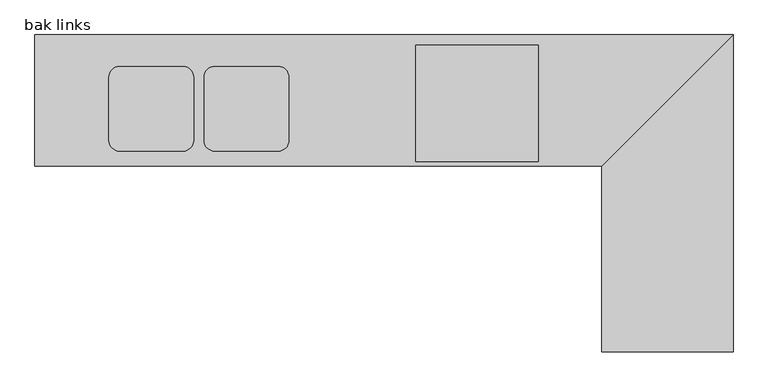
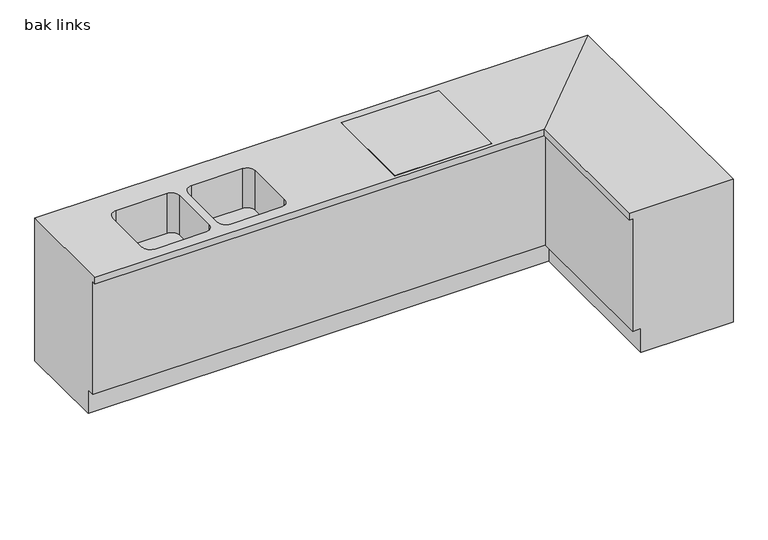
"""IFC4 building model written with IfcOpenShell, lengths in millimetres: furniture geometry, NL_73_aanrechtblok hoek : bak links."""

from ifc_helpers import new_model, si_unit, frame, origin, place, context, project, spatial, polyline, circle_curve, outline, extrude, source, transform, mapped, element, save
from ifc_brep_helpers import plane_surface, revolved_surface, advanced_brep


def bak_links_381d0626(model_context):
    return source(origin(), model_context, "Body", "SolidModel", [
        extrude(outline(polyline([(-389.8761694, -50.0), (-389.8761694, -600.0), (-969.8761694, -600.0), (-969.8761694, -50.0), (-389.8761694, -50.0)])), frame((0.0, 0.0, 900.0), z_axis=(0.0, 0.0, 1.0), x_axis=(1.0, 0.0, 0.0)), (0.0, 0.0, 1.0), 2.0),
        advanced_brep(
        [(-2769.8761694, -550.0, 0.0), (-2769.8761694, -550.0, 150.0), (-2769.8761694, -600.0, 150.0), (-2769.8761694, -600.0, 860.0), (-2769.8761694, -620.0, 860.0), (-2769.8761694, -620.0, 900.0), (-2769.8761694, 0.0, 900.0), (-2769.8761694, 0.0, 0.0), (-19.8761694, -550.0, 0.0), (-19.8761694, -550.0, 150.0), (-69.8761694, -600.0, 150.0), (-69.8761694, -600.0, 860.0), (-89.8761694, -620.0, 860.0), (-89.8761694, -620.0, 900.0), (530.1238306, 0.0, 900.0), (-2369.8761694, -150.0, 900.0), (-2069.8761694, -150.0, 900.0), (-2019.8761694, -200.0, 900.0), (-2019.8761694, -500.0, 900.0), (-2069.8761694, -550.0, 900.0), (-2369.8761694, -550.0, 900.0), (-2419.8761694, -500.0, 900.0), (-2419.8761694, -200.0, 900.0), (-1919.8761694, -150.0, 900.0), (-1619.8761694, -150.0, 900.0), (-1569.8761694, -200.0, 900.0), (-1569.8761694, -500.0, 900.0), (-1619.8761694, -550.0, 900.0), (-1919.8761694, -550.0, 900.0), (-1969.8761694, -500.0, 900.0), (-1969.8761694, -200.0, 900.0), (530.1238306, 0.0, 0.0), (-19.8761694, -1500.0, 0.0), (530.1238306, -1500.0, 0.0), (530.1238306, -1500.0, 900.0), (-89.8761694, -1500.0, 900.0), (-89.8761694, -1500.0, 860.0), (-69.8761694, -1500.0, 860.0), (-69.8761694, -1500.0, 150.0), (-19.8761694, -1500.0, 150.0), (-2069.8761694, -150.0, 650.0), (-2369.8761694, -150.0, 650.0), (-2419.8761694, -200.0, 650.0), (-2419.8761694, -500.0, 650.0), (-2369.8761694, -550.0, 650.0), (-2069.8761694, -550.0, 650.0), (-2019.8761694, -500.0, 650.0), (-2019.8761694, -200.0, 650.0), (-1619.8761694, -150.0, 650.0), (-1919.8761694, -150.0, 650.0), (-1969.8761694, -200.0, 650.0), (-1969.8761694, -500.0, 650.0), (-1919.8761694, -550.0, 650.0), (-1619.8761694, -550.0, 650.0), (-1569.8761694, -500.0, 650.0), (-1569.8761694, -200.0, 650.0)],
        [
            (0, 1),
            (1, 2),
            (2, 3),
            (3, 4),
            (4, 5),
            (5, 6),
            (6, 7),
            (7, 0),
            (0, 8),
            (8, 9),
            (9, 1),
            (9, 10),
            (10, 2),
            (10, 11),
            (11, 3),
            (11, 12),
            (12, 4),
            (12, 13),
            (13, 5),
            (13, 14),
            (14, 6),
            (15, 16),
            (16, 17, circle_curve(frame((-2069.8761694, -200.0, 900.0), z_axis=(0.0, 0.0, -1.0), x_axis=(0.0, -1.0, 0.0)), 50.0)),
            (17, 18),
            (18, 19, circle_curve(frame((-2069.8761694, -500.0, 900.0), z_axis=(0.0, 0.0, -1.0), x_axis=(0.0, -1.0, 0.0)), 50.0)),
            (19, 20),
            (20, 21, circle_curve(frame((-2369.8761694, -500.0, 900.0), z_axis=(0.0, 0.0, -1.0), x_axis=(0.0, -1.0, 0.0)), 50.0)),
            (21, 22),
            (22, 15, circle_curve(frame((-2369.8761694, -200.0, 900.0), z_axis=(0.0, 0.0, -1.0), x_axis=(0.0, -1.0, 0.0)), 50.0)),
            (23, 24),
            (24, 25, circle_curve(frame((-1619.8761694, -200.0, 900.0), z_axis=(0.0, 0.0, -1.0), x_axis=(0.0, -1.0, 0.0)), 50.0)),
            (25, 26),
            (26, 27, circle_curve(frame((-1619.8761694, -500.0, 900.0), z_axis=(0.0, 0.0, -1.0), x_axis=(0.0, -1.0, 0.0)), 50.0)),
            (27, 28),
            (28, 29, circle_curve(frame((-1919.8761694, -500.0, 900.0), z_axis=(0.0, 0.0, -1.0), x_axis=(0.0, -1.0, 0.0)), 50.0)),
            (29, 30),
            (30, 23, circle_curve(frame((-1919.8761694, -200.0, 900.0), z_axis=(0.0, 0.0, -1.0), x_axis=(0.0, -1.0, 0.0)), 50.0)),
            (14, 31),
            (31, 7),
            (31, 8),
            (32, 33),
            (33, 34),
            (34, 35),
            (35, 36),
            (36, 37),
            (37, 38),
            (38, 39),
            (39, 32),
            (8, 32),
            (39, 9),
            (38, 10),
            (37, 11),
            (36, 12),
            (35, 13),
            (34, 14),
            (33, 31),
            (40, 41),
            (41, 42, circle_curve(frame((-2369.8761694, -200.0, 650.0), z_axis=(0.0, 0.0, 1.0), x_axis=(0.0, -1.0, 0.0)), 50.0)),
            (42, 43),
            (43, 44, circle_curve(frame((-2369.8761694, -500.0, 650.0), z_axis=(0.0, 0.0, 1.0), x_axis=(0.0, -1.0, 0.0)), 50.0)),
            (44, 45),
            (45, 46, circle_curve(frame((-2069.8761694, -500.0, 650.0), z_axis=(0.0, 0.0, 1.0), x_axis=(0.0, -1.0, 0.0)), 50.0)),
            (46, 47),
            (47, 40, circle_curve(frame((-2069.8761694, -200.0, 650.0), z_axis=(0.0, 0.0, 1.0), x_axis=(0.0, -1.0, 0.0)), 50.0)),
            (40, 16),
            (15, 41),
            (22, 42),
            (21, 43),
            (20, 44),
            (19, 45),
            (18, 46),
            (17, 47),
            (48, 49),
            (49, 50, circle_curve(frame((-1919.8761694, -200.0, 650.0), z_axis=(0.0, 0.0, 1.0), x_axis=(0.0, -1.0, 0.0)), 50.0)),
            (50, 51),
            (51, 52, circle_curve(frame((-1919.8761694, -500.0, 650.0), z_axis=(0.0, 0.0, 1.0), x_axis=(0.0, -1.0, 0.0)), 50.0)),
            (52, 53),
            (53, 54, circle_curve(frame((-1619.8761694, -500.0, 650.0), z_axis=(0.0, 0.0, 1.0), x_axis=(0.0, -1.0, 0.0)), 50.0)),
            (54, 55),
            (55, 48, circle_curve(frame((-1619.8761694, -200.0, 650.0), z_axis=(0.0, 0.0, 1.0), x_axis=(0.0, -1.0, 0.0)), 50.0)),
            (48, 24),
            (23, 49),
            (30, 50),
            (29, 51),
            (28, 52),
            (27, 53),
            (26, 54),
            (25, 55),
        ],
        [
            plane_surface(frame((-2769.8761694, 0.0, -1092.8860874), z_axis=(-1.0, 0.0, 0.0), x_axis=(0.0, 1.0, 0.0))),
            plane_surface(frame((-2769.8761694, -550.0, 0.0), z_axis=(0.0, -1.0, 0.0), x_axis=(1.0, 0.0, 0.0))),
            plane_surface(frame((-2769.8761694, -550.0, 150.0), z_axis=(0.0, 0.0, -1.0), x_axis=(1.0, 0.0, 0.0))),
            plane_surface(frame((-2769.8761694, -600.0, 150.0), z_axis=(0.0, -1.0, 0.0), x_axis=(1.0, 0.0, 0.0))),
            plane_surface(frame((-2769.8761694, -600.0, 860.0), z_axis=(0.0, 0.0, -1.0), x_axis=(1.0, 0.0, 0.0))),
            plane_surface(frame((-2769.8761694, -620.0, 860.0), z_axis=(0.0, -1.0, 0.0), x_axis=(1.0, 0.0, 0.0))),
            plane_surface(frame((-2769.8761694, -620.0, 900.0), z_axis=(0.0, 0.0, 1.0), x_axis=(1.0, 0.0, 0.0))),
            plane_surface(frame((-2769.8761694, 0.0, 900.0), z_axis=(0.0, 1.0, 0.0), x_axis=(1.0, 0.0, 0.0))),
            plane_surface(frame((-2769.8761694, 0.0, 0.0), z_axis=(0.0, 0.0, -1.0), x_axis=(1.0, 0.0, 0.0))),
            plane_surface(frame((-562.7622567, -1500.0, 0.0), z_axis=(0.0, -1.0, 0.0), x_axis=(0.0, 0.0, -1.0))),
            plane_surface(frame((-19.8761694, -550.0, 0.0), z_axis=(-1.0, 0.0, 0.0), x_axis=(0.0, -1.0, 0.0))),
            plane_surface(frame((-19.8761694, -550.0, 150.0), z_axis=(0.0, 0.0, -1.0), x_axis=(0.0, -1.0, 0.0))),
            plane_surface(frame((-69.8761694, -600.0, 150.0), z_axis=(-1.0, 0.0, 0.0), x_axis=(0.0, -1.0, 0.0))),
            plane_surface(frame((-69.8761694, -600.0, 860.0), z_axis=(0.0, 0.0, -1.0), x_axis=(0.0, -1.0, 0.0))),
            plane_surface(frame((-89.8761694, -620.0, 860.0), z_axis=(-1.0, 0.0, 0.0), x_axis=(0.0, -1.0, 0.0))),
            plane_surface(frame((-89.8761694, -620.0, 900.0), z_axis=(0.0, 0.0, 1.0), x_axis=(0.0, -1.0, 0.0))),
            plane_surface(frame((530.1238306, 0.0, 900.0), z_axis=(1.0, 0.0, 0.0), x_axis=(0.0, -1.0, 0.0))),
            plane_surface(frame((530.1238306, 0.0, 0.0), z_axis=(0.0, 0.0, -1.0), x_axis=(0.0, -1.0, 0.0))),
            plane_surface(frame((-2369.8761694, -150.0, 650.0), z_axis=(0.0, 0.0, 1.0), x_axis=(1.0, 0.0, 0.0))),
            plane_surface(frame((-2069.8761694, -150.0, 900.0), z_axis=(0.0, -1.0, 0.0), x_axis=(0.0, 0.0, -1.0))),
            revolved_surface(polyline([(-2369.8761694, -250.0, 900.0), (-2369.8761694, -250.0, 650.0)]), (-2369.8761694, -200.0, 650.0), (0.0, 0.0, 1.0)),
            plane_surface(frame((-2419.8761694, -200.0, 900.0), z_axis=(1.0, 0.0, 0.0), x_axis=(0.0, 0.0, -1.0))),
            revolved_surface(polyline([(-2369.8761694, -550.0, 900.0), (-2369.8761694, -550.0, 650.0)]), (-2369.8761694, -500.0, 650.0), (0.0, 0.0, 1.0)),
            plane_surface(frame((-2369.8761694, -550.0, 900.0), z_axis=(0.0, 1.0, 0.0), x_axis=(0.0, 0.0, -1.0))),
            revolved_surface(polyline([(-2069.8761694, -550.0, 900.0), (-2069.8761694, -550.0, 650.0)]), (-2069.8761694, -500.0, 650.0), (0.0, 0.0, 1.0)),
            plane_surface(frame((-2019.8761694, -500.0, 900.0), z_axis=(-1.0, 0.0, 0.0), x_axis=(0.0, 0.0, -1.0))),
            revolved_surface(polyline([(-2069.8761694, -250.0, 900.0), (-2069.8761694, -250.0, 650.0)]), (-2069.8761694, -200.0, 650.0), (0.0, 0.0, 1.0)),
            plane_surface(frame((-1919.8761694, -150.0, 650.0), z_axis=(0.0, 0.0, 1.0), x_axis=(1.0, 0.0, 0.0))),
            plane_surface(frame((-1619.8761694, -150.0, 900.0), z_axis=(0.0, -1.0, 0.0), x_axis=(0.0, 0.0, -1.0))),
            revolved_surface(polyline([(-1919.8761694, -250.0, 900.0), (-1919.8761694, -250.0, 650.0)]), (-1919.8761694, -200.0, 650.0), (0.0, 0.0, 1.0)),
            plane_surface(frame((-1969.8761694, -200.0, 900.0), z_axis=(1.0, 0.0, 0.0), x_axis=(0.0, 0.0, -1.0))),
            revolved_surface(polyline([(-1919.8761694, -550.0, 900.0), (-1919.8761694, -550.0, 650.0)]), (-1919.8761694, -500.0, 650.0), (0.0, 0.0, 1.0)),
            plane_surface(frame((-1919.8761694, -550.0, 900.0), z_axis=(0.0, 1.0, 0.0), x_axis=(0.0, 0.0, -1.0))),
            revolved_surface(polyline([(-1619.8761694, -550.0, 900.0), (-1619.8761694, -550.0, 650.0)]), (-1619.8761694, -500.0, 650.0), (0.0, 0.0, 1.0)),
            plane_surface(frame((-1569.8761694, -500.0, 900.0), z_axis=(-1.0, 0.0, 0.0), x_axis=(0.0, 0.0, -1.0))),
            revolved_surface(polyline([(-1619.8761694, -250.0, 900.0), (-1619.8761694, -250.0, 650.0)]), (-1619.8761694, -200.0, 650.0), (0.0, 0.0, 1.0)),
        ],
        [
            (0, [[1, 2, 3, 4, 5, 6, 7, 8]]),
            (1, [[-1, 9, 10, 11]]),
            (2, [[-2, -11, 12, 13]]),
            (3, [[-3, -13, 14, 15]]),
            (4, [[-4, -15, 16, 17]]),
            (5, [[-5, -17, 18, 19]]),
            (6, [[-6, -19, 20, 21], [22, 23, 24, 25, 26, 27, 28, 29], [30, 31, 32, 33, 34, 35, 36, 37]]),
            (7, [[-7, -21, 38, 39]]),
            (8, [[-8, -39, 40, -9]]),
            (9, [[41, 42, 43, 44, 45, 46, 47, 48]]),
            (10, [[-10, 49, -48, 50]]),
            (11, [[-12, -50, -47, 51]]),
            (12, [[-14, -51, -46, 52]]),
            (13, [[-16, -52, -45, 53]]),
            (14, [[-18, -53, -44, 54]]),
            (15, [[-20, -54, -43, 55]]),
            (16, [[-38, -55, -42, 56]]),
            (17, [[-40, -56, -41, -49]]),
            (18, [[57, 58, 59, 60, 61, 62, 63, 64]]),
            (19, [[-57, 65, -22, 66]]),
            (20, [[-58, -66, -29, 67]]),
            (21, [[-59, -67, -28, 68]]),
            (22, [[-60, -68, -27, 69]]),
            (23, [[-61, -69, -26, 70]]),
            (24, [[-62, -70, -25, 71]]),
            (25, [[-63, -71, -24, 72]]),
            (26, [[-64, -72, -23, -65]]),
            (27, [[73, 74, 75, 76, 77, 78, 79, 80]]),
            (28, [[-73, 81, -30, 82]]),
            (29, [[-74, -82, -37, 83]]),
            (30, [[-75, -83, -36, 84]]),
            (31, [[-76, -84, -35, 85]]),
            (32, [[-77, -85, -34, 86]]),
            (33, [[-78, -86, -33, 87]]),
            (34, [[-79, -87, -32, 88]]),
            (35, [[-80, -88, -31, -81]]),
        ],
    ),
    ])


if __name__ == "__main__":
    model = new_model("IFC4")
    model_context = context("Model", 3, world=origin())
    ifc_project = project(units=[si_unit("LENGTHUNIT", "METRE", prefix="MILLI")], contexts=[model_context])
    site = spatial("IfcSite", under=ifc_project)
    building = spatial("IfcBuilding", under=site)
    placement = place(None, origin())
    bak_links_shape = bak_links_381d0626(model_context)
    element("IfcFurniture", 1, ObjectType="NL_73_aanrechtblok hoek : bak links", at=placement, inside=building, context=model_context, shape_type="MappedRepresentation", body=[
        mapped(bak_links_shape, transform((0.0, 0.0, 0.0), x_axis=(1.0, 0.0, 0.0), y_axis=(0.0, 1.0, 0.0), z_axis=(0.0, 0.0, 1.0))),
    ])
    save(model, "model.ifc")
